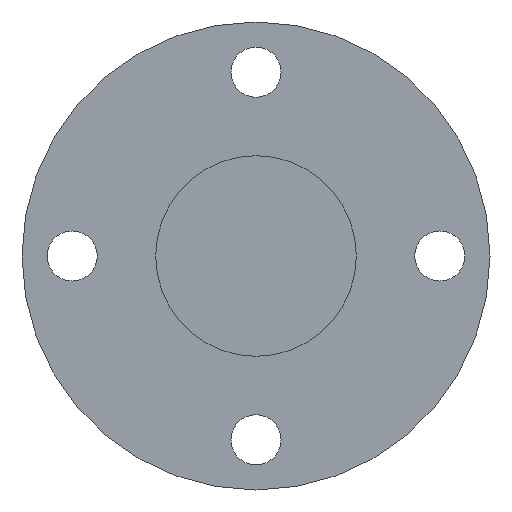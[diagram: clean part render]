
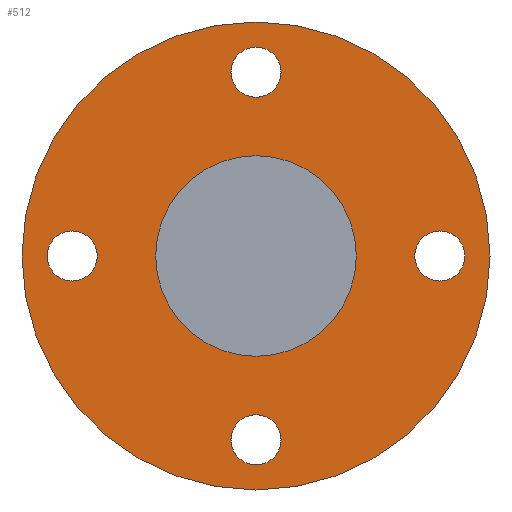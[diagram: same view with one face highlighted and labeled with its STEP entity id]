
A CAD part, left-side view. The second image highlights one B-rep face of the part: STEP entity #512.
In plain terms, the highlighted planar face has unit normal (-1, 0, 0).
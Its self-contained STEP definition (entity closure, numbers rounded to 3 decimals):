
#401=CARTESIAN_POINT('',(120.0,33.0,-4.5));
#402=VERTEX_POINT('',#401);
#403=CARTESIAN_POINT('',(120.0,33.0,0.));
#404=DIRECTION('',(1.0,0.0,0.0));
#405=DIRECTION('',(0.0,0.0,-1.0));
#406=AXIS2_PLACEMENT_3D('',#403,#404,#405);
#407=CIRCLE('',#406,4.5);
#408=EDGE_CURVE('',#402,#402,#407,.T.);
#421=CARTESIAN_POINT('',(120.0,-4.5,-33.0));
#422=VERTEX_POINT('',#421);
#423=CARTESIAN_POINT('',(120.0,0.,-33.0));
#424=DIRECTION('',(1.0,0.0,0.0));
#425=DIRECTION('',(0.0,-1.0,0.0));
#426=AXIS2_PLACEMENT_3D('',#423,#424,#425);
#427=CIRCLE('',#426,4.5);
#428=EDGE_CURVE('',#422,#422,#427,.T.);
#441=CARTESIAN_POINT('',(120.0,-33.0,4.5));
#442=VERTEX_POINT('',#441);
#443=CARTESIAN_POINT('',(120.0,-33.0,0.));
#444=DIRECTION('',(1.0,0.0,0.0));
#445=DIRECTION('',(0.0,0.0,1.0));
#446=AXIS2_PLACEMENT_3D('',#443,#444,#445);
#447=CIRCLE('',#446,4.5);
#448=EDGE_CURVE('',#442,#442,#447,.T.);
#461=CARTESIAN_POINT('',(120.0,4.5,33.0));
#462=VERTEX_POINT('',#461);
#463=CARTESIAN_POINT('',(120.0,0.0,33.0));
#464=DIRECTION('',(1.0,0.0,0.0));
#465=DIRECTION('',(0.0,1.0,0.0));
#466=AXIS2_PLACEMENT_3D('',#463,#464,#465);
#467=CIRCLE('',#466,4.5);
#468=EDGE_CURVE('',#462,#462,#467,.T.);
#473=CARTESIAN_POINT('',(120.0,0.0,30.0));
#474=DIRECTION('',(-1.0,0.0,0.0));
#475=DIRECTION('',(0.0,0.0,1.0));
#476=AXIS2_PLACEMENT_3D('',#473,#474,#475);
#477=PLANE('',#476);
#478=CARTESIAN_POINT('',(120.0,0.0,42.0));
#479=VERTEX_POINT('',#478);
#480=CARTESIAN_POINT('',(120.0,0.0,0.0));
#481=DIRECTION('',(-1.0,0.0,0.0));
#482=DIRECTION('',(0.0,0.0,1.0));
#483=AXIS2_PLACEMENT_3D('',#480,#481,#482);
#484=CIRCLE('',#483,42.0);
#485=EDGE_CURVE('',#479,#479,#484,.T.);
#486=ORIENTED_EDGE('',*,*,#485,.T.);
#487=EDGE_LOOP('',(#486));
#488=FACE_OUTER_BOUND('',#487,.T.);
#489=ORIENTED_EDGE('',*,*,#408,.T.);
#490=EDGE_LOOP('',(#489));
#491=FACE_BOUND('',#490,.T.);
#492=ORIENTED_EDGE('',*,*,#428,.T.);
#493=EDGE_LOOP('',(#492));
#494=FACE_BOUND('',#493,.T.);
#495=ORIENTED_EDGE('',*,*,#448,.T.);
#496=EDGE_LOOP('',(#495));
#497=FACE_BOUND('',#496,.T.);
#498=ORIENTED_EDGE('',*,*,#468,.T.);
#499=EDGE_LOOP('',(#498));
#500=FACE_BOUND('',#499,.T.);
#501=CARTESIAN_POINT('',(120.0,0.0,18.));
#502=VERTEX_POINT('',#501);
#503=CARTESIAN_POINT('',(120.0,0.0,0.0));
#504=DIRECTION('',(-1.0,0.0,0.0));
#505=DIRECTION('',(0.0,0.0,1.0));
#506=AXIS2_PLACEMENT_3D('',#503,#504,#505);
#507=CIRCLE('',#506,18.);
#508=EDGE_CURVE('',#502,#502,#507,.T.);
#509=ORIENTED_EDGE('',*,*,#508,.F.);
#510=EDGE_LOOP('',(#509));
#511=FACE_BOUND('',#510,.T.);
#512=ADVANCED_FACE('',(#488,#491,#494,#497,#500,#511),#477,.T.);
